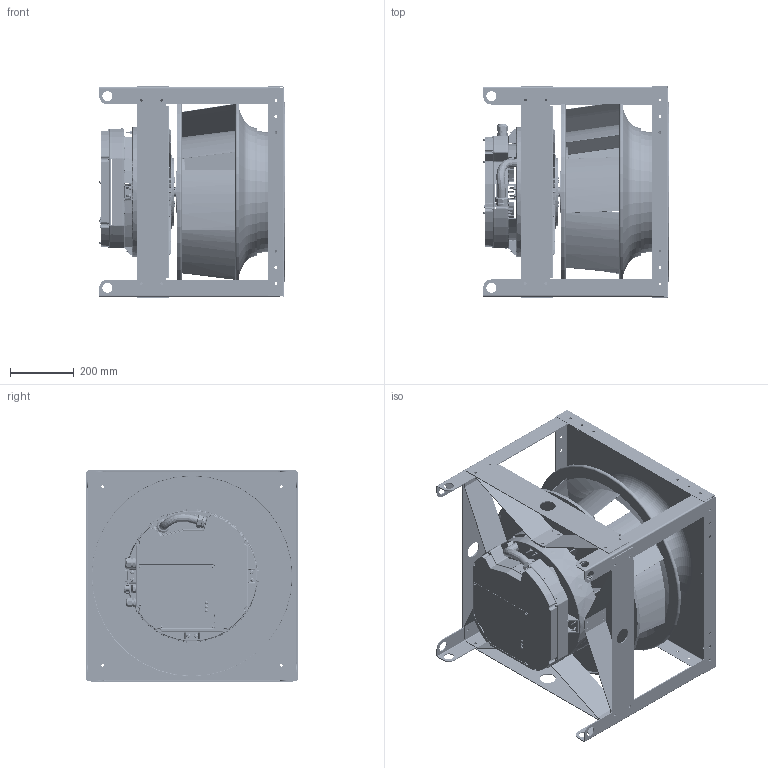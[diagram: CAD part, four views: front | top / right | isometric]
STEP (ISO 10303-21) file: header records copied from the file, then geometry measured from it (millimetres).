
FILE_DESCRIPTION (( 'STEP AP214' ), '1' );
FILE_NAME ('655786.STEP', '2026-06-10T16:43:29', ( '' ), ( '' ), 'SwSTEP 2.0', 'SolidWorks 2023', '' );
FILE_SCHEMA (( 'AUTOMOTIVE_DESIGN' ));
Length unit declared in the file: inch
Products named in the file (8): 651593_651593; 651559_651559; 768050CS_768050CS; SXPI STRAP_651579; 768038CS_768038CS; 925517CS_925517CS; 651610_651610; 655786
Assembly tree (16 placements, depth 2):
  655786
    651559_651559
    768050CS_768050CS
    768038CS_768038CS
    925517CS_925517CS
    651610_651610  x4
    651593_651593  x4
    SXPI STRAP_651579  x4
Bounding box: 579.99 x 663.7 x 663.7 mm (x, y, z)
Volume: 8333534.5 mm3; surface area: 6337384 mm2
Topology: 26 solids, 248 shells, 4382 faces, 14025 edges, 9591 vertices
Faces by surface type: cylinder 1285, plane 1169, bspline 1126, torus 402, cone 395, sphere 5
Full cylindrical faces by diameter (mm): 2.9 x2, 3.962 x4, 5.105 x16, 6 x144, 7 x5, 7.137 x16, 7.544 x1, 7.937 x3, 7.938 x1, 8.5 x1, 8.738 x87, 9 x5, 9.73 x8, 10.1 x1, 10.2 x1, 11.8 x7, 12.5 x1, 12.6 x1, 13 x7, 14 x1, 17.462 x4, 23.5 x1, 25.4 x1, 25.5 x2, 26.2 x1, 26.35 x1, 26.416 x2, 26.5 x1, 28.575 x1, 29.75 x1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
Entity records: 309491 total; most frequent: CARTESIAN_POINT 211214, ORIENTED_EDGE 20257, DIRECTION 17379, EDGE_CURVE 12542, VERTEX_POINT 8799, AXIS2_PLACEMENT_3D 6881, EDGE_LOOP 4748, B_SPLINE_CURVE_WITH_KNOTS 4148
